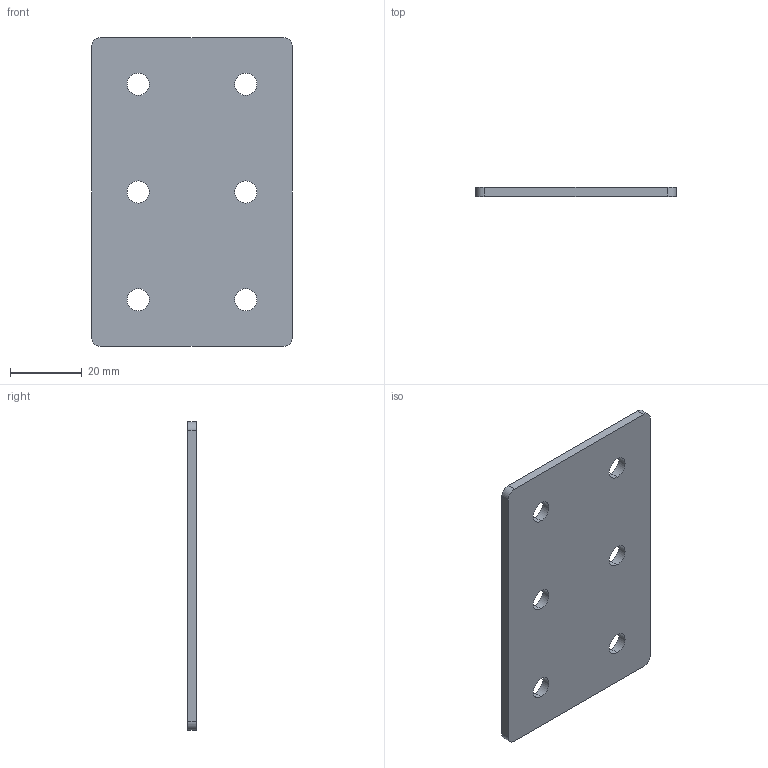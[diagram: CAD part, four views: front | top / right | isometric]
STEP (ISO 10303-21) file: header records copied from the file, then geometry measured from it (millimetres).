
FILE_DESCRIPTION (( 'STEP AP203' ), '1' );
FILE_NAME ('ﾏ-6-30.STEP', '2016-07-23T15:10:47', ( '' ), ( '' ), 'SwSTEP 2.0', 'SolidWorks 2014', '' );
FILE_SCHEMA (( 'CONFIG_CONTROL_DESIGN' ));
Length unit declared in the file: millimetre
Products named in the file (1): ﾏ-6-30
Bounding box: 56 x 2.5 x 86 mm (x, y, z)
Surface area: 10250.4 mm2 (no closed solid volume)
Topology: 0 solids, 1 shells, 22 faces, 60 edges, 40 vertices
Faces by surface type: cylinder 16, plane 6
Entity records: 817 total; most frequent: DIRECTION 138, CARTESIAN_POINT 123, ORIENTED_EDGE 120, EDGE_CURVE 60, AXIS2_PLACEMENT_3D 55, VERTEX_POINT 40, EDGE_LOOP 34, CIRCLE 32
